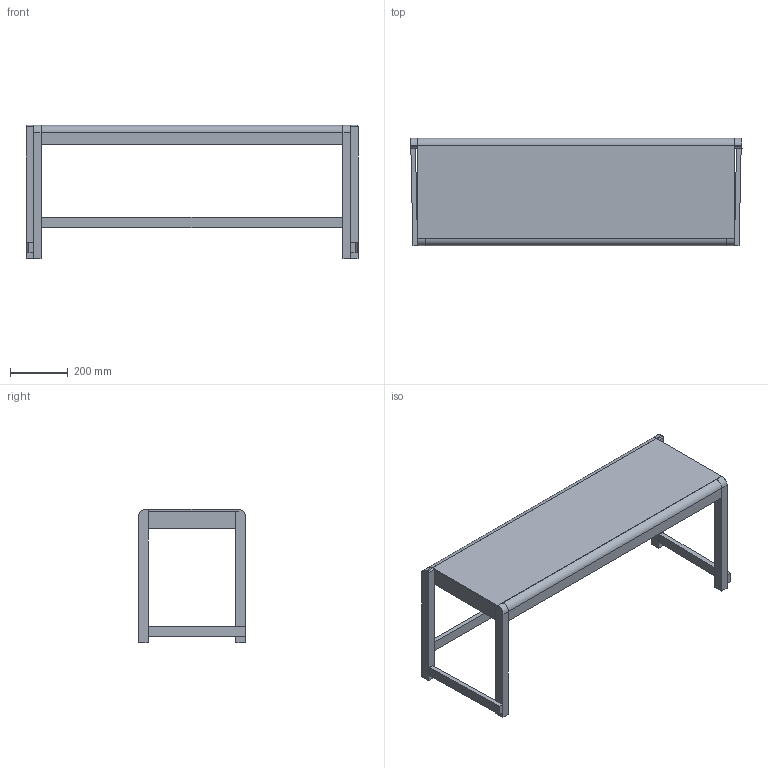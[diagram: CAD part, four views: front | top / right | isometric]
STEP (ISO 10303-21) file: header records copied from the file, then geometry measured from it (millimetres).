
FILE_DESCRIPTION(/* description */ (''),/* implementation_level */ '2;1');
FILE_NAME(/* name */ 'FRAMA_01-Bench-3D',/* time_stamp */ '2025-10-20T13:29:47+02:00',/* author */ (''),/* organization */ (''),/* preprocessor_version */ 'ST-DEVELOPER v16.5',/* originating_system */ 'Rhino 7.38',/* authorisation */ '');
FILE_SCHEMA (('CONFIG_CONTROL_DESIGN'));
Length unit declared in the file: millimetre
Products named in the file (1): Document
Bounding box: 1146 x 371 x 460 mm (x, y, z)
Volume: 9984354.4 mm3; surface area: 1646520.2 mm2
Topology: 12 solids, 12 shells, 88 faces, 193 edges, 129 vertices
Faces by surface type: plane 80, cylinder 8
Entity records: 2129 total; most frequent: CARTESIAN_POINT 704, ORIENTED_EDGE 384, EDGE_CURVE 192, VERTEX_POINT 128, DIRECTION 94, AXIS2_PLACEMENT_3D 91, ADVANCED_FACE 88, FACE_OUTER_BOUND 88
